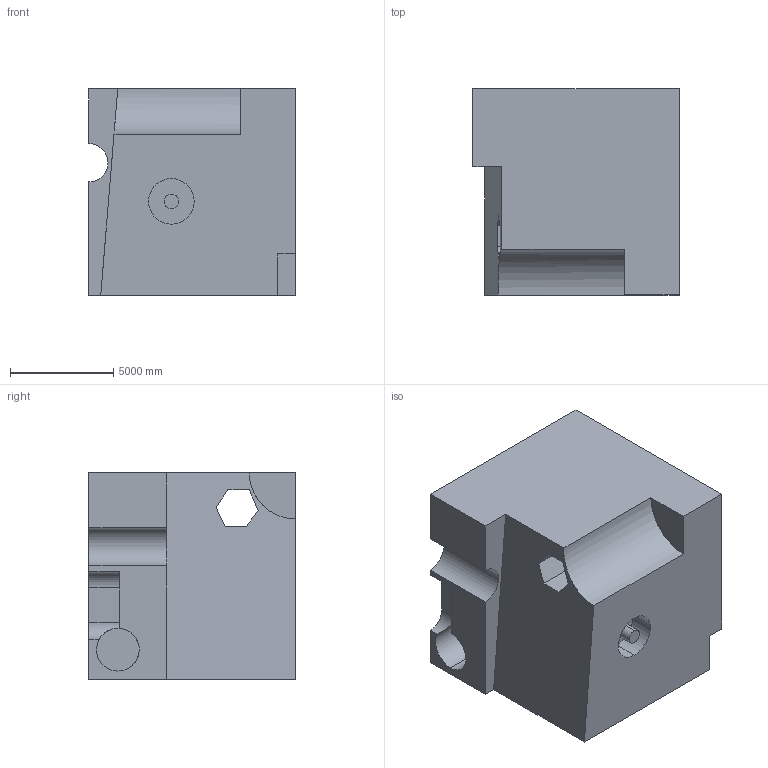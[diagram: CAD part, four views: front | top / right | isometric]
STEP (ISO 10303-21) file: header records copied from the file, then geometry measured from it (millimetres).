
FILE_DESCRIPTION (( 'STEP AP203' ), '1' );
FILE_NAME ('71.STEP', '2022-08-30T14:21:31', ( 'user' ), ( '' ), 'SwSTEP 2.0', 'SolidWorks 2021', '' );
FILE_SCHEMA (( 'CONFIG_CONTROL_DESIGN' ));
Length unit declared in the file: centimetre
Products named in the file (1): 71
Bounding box: 10000 x 10000 x 10000 mm (x, y, z)
Volume: 860328441531.7 mm3; surface area: 654206167.7 mm2
Topology: 1 solids, 1 shells, 34 faces, 90 edges, 60 vertices
Faces by surface type: plane 24, cylinder 10
Entity records: 1213 total; most frequent: CARTESIAN_POINT 271, ORIENTED_EDGE 180, DIRECTION 176, EDGE_CURVE 90, VECTOR 68, LINE 68, VERTEX_POINT 60, AXIS2_PLACEMENT_3D 54
